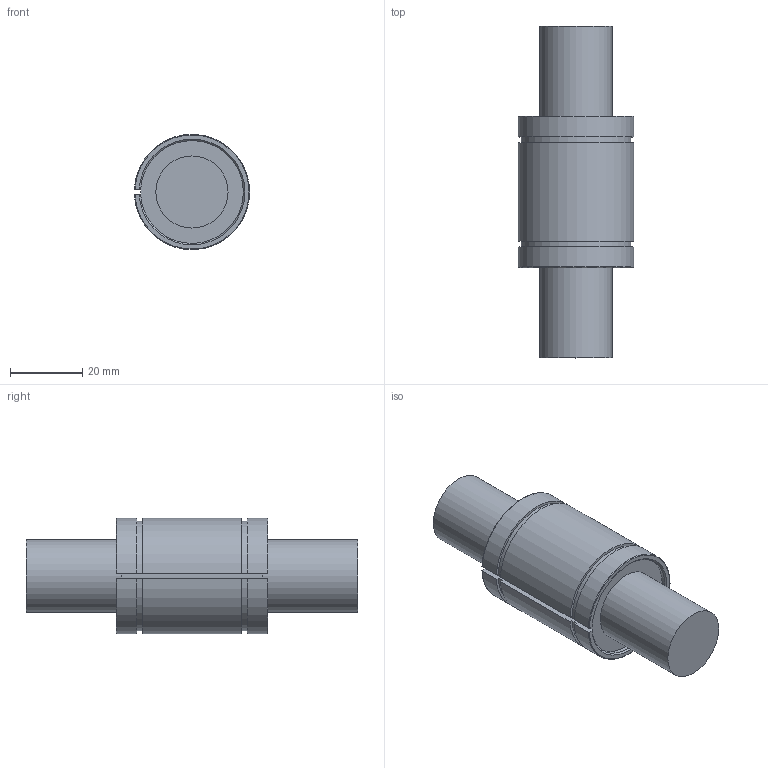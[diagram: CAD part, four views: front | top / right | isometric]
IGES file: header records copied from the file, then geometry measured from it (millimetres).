
Global section: file name: No Iges File Name specified; native system: Autodesk Inventor 2012; preprocessor: AutoDesk Inventor Iges Exporter R2012; author: user2; date: 20130206.101623; units: millimetre
Bounding box: 31.98 x 92 x 31.99 mm (x, y, z)
Volume: 48189.2 mm3; surface area: 9759.4 mm2
Topology: 1 solids, 1 shells, 26 faces, 64 edges, 42 vertices
Faces by surface type: plane 12, cylinder 8, revolution 4, torus 2
Full cylindrical faces by diameter (mm): 20 x2
